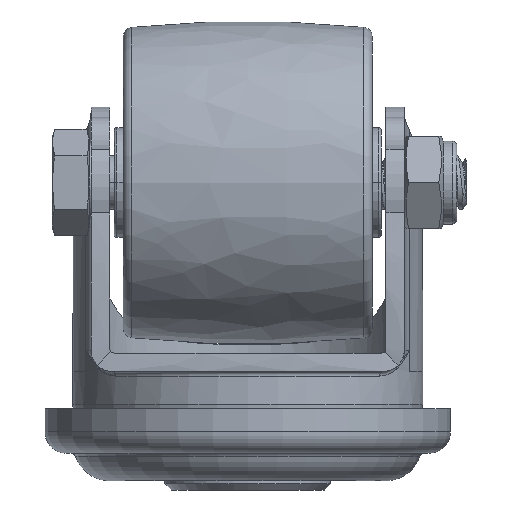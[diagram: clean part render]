
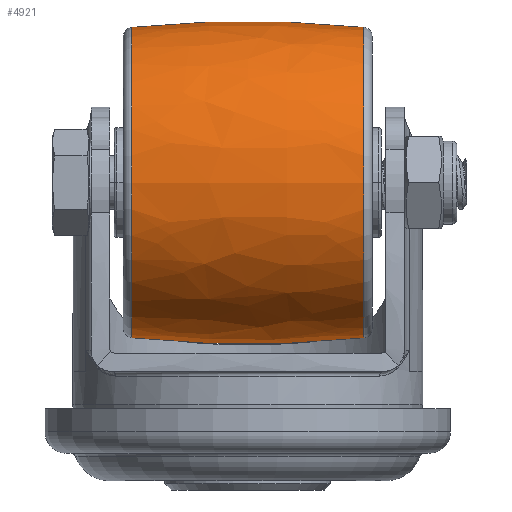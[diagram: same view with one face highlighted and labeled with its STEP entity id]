
A CAD part, front view. The second image highlights one B-rep face of the part: STEP entity #4921.
In plain terms, the highlighted free-form (B-spline) face has degree [3, 3] with [7, 4] control points.
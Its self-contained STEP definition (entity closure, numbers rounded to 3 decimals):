
#4671=CARTESIAN_POINT('',(0.,0.,-104.375));
#4672=DIRECTION('',(0.,-1.,0.));
#4673=DIRECTION('',(0.103,0.,0.995));
#4674=AXIS2_PLACEMENT_3D('',#4671,#4672,#4673);
#4681=CARTESIAN_POINT('',(0.,0.,104.375));
#4682=DIRECTION('',(0.,1.,0.));
#4683=DIRECTION('',(0.103,0.,-0.995));
#4684=AXIS2_PLACEMENT_3D('',#4681,#4682,#4683);
#4696=CARTESIAN_POINT('',(12.603,0.,0.));
#4697=DIRECTION('',(-1.,0.,0.));
#4698=DIRECTION('',(0.,0.,-1.));
#4699=AXIS2_PLACEMENT_3D('',#4696,#4697,#4698);
#4701=CARTESIAN_POINT('',(-12.603,0.,0.));
#4702=DIRECTION('',(-1.,0.,0.));
#4703=DIRECTION('',(0.,0.,-1.));
#4704=AXIS2_PLACEMENT_3D('',#4701,#4702,#4703);
#4714=CARTESIAN_POINT('',(12.603,0.,-16.847));
#4715=CARTESIAN_POINT('',(12.603,0.,16.847));
#4716=VERTEX_POINT('',#4714);
#4717=VERTEX_POINT('',#4715);
#4726=CARTESIAN_POINT('',(-12.603,0.,-16.847));
#4727=CARTESIAN_POINT('',(-12.603,0.,16.847));
#4728=VERTEX_POINT('',#4726);
#4729=VERTEX_POINT('',#4727);
#4886=CARTESIAN_POINT('',(13.106,1.054,-16.76));
#4887=CARTESIAN_POINT('',(4.385,1.114,-17.701));
#4888=CARTESIAN_POINT('',(-4.385,1.114,
-17.701));
#4889=CARTESIAN_POINT('',(-13.106,1.054,
-16.76));
#4890=CARTESIAN_POINT('',(13.106,-9.26,
-17.409));
#4891=CARTESIAN_POINT('',(4.385,-9.78,
-18.387));
#4892=CARTESIAN_POINT('',(-4.385,-9.78,
-18.387));
#4893=CARTESIAN_POINT('',(-13.106,-9.26,
-17.409));
#4894=CARTESIAN_POINT('',(13.106,-16.793,
-10.335));
#4895=CARTESIAN_POINT('',(4.385,-17.736,
-10.915));
#4896=CARTESIAN_POINT('',(-4.385,-17.736,
-10.915));
#4897=CARTESIAN_POINT('',(-13.106,-16.793,
-10.335));
#4898=CARTESIAN_POINT('',(13.106,-16.793,
0.));
#4899=CARTESIAN_POINT('',(4.385,-17.736,
0.));
#4900=CARTESIAN_POINT('',(-4.385,-17.736,
0.));
#4901=CARTESIAN_POINT('',(-13.106,-16.793,
0.));
#4902=CARTESIAN_POINT('',(13.106,-16.793,10.335));
#4903=CARTESIAN_POINT('',(4.385,-17.736,10.915));
#4904=CARTESIAN_POINT('',(-4.385,-17.736,
10.915));
#4905=CARTESIAN_POINT('',(-13.106,-16.793,
10.335));
#4906=CARTESIAN_POINT('',(13.106,-9.26,17.409));
#4907=CARTESIAN_POINT('',(4.385,-9.78,18.387));
#4908=CARTESIAN_POINT('',(-4.385,-9.78,
18.387));
#4909=CARTESIAN_POINT('',(-13.106,-9.26,
17.409));
#4910=CARTESIAN_POINT('',(13.106,1.054,16.76));
#4911=CARTESIAN_POINT('',(4.385,1.114,17.701));
#4912=CARTESIAN_POINT('',(-4.385,1.114,17.701));
#4913=CARTESIAN_POINT('',(-13.106,1.054,16.76));
#4914=(BOUNDED_SURFACE()B_SPLINE_SURFACE(3,3,((#4886,#4887,#4888,#4889),(#4890,
#4891,#4892,#4893),(#4894,#4895,#4896,#4897),(#4898,#4899,#4900,#4901),(#4902,
#4903,#4904,#4905),(#4906,#4907,#4908,#4909),(#4910,#4911,#4912,#4913)),
.UNSPECIFIED.,.F.,.F.,.F.)B_SPLINE_SURFACE_WITH_KNOTS((4,3,4),(4,4),(0.,1.,
2.),(0.,1.),.UNSPECIFIED.)GEOMETRIC_REPRESENTATION_ITEM()RATIONAL_B_SPLINE_SURFACE(((1.191,1.186,1.186,1.191),(
0.94,0.937,0.937,0.94),(
0.94,0.937,0.937,0.94),(
1.191,1.186,1.186,1.191),(
0.94,0.937,0.937,0.94),(
0.94,0.937,0.937,0.94),(
1.191,1.186,1.186,1.191)))REPRESENTATION_ITEM('')SURFACE());
#4915=ORIENTED_EDGE('',*,*,#4878,.F.);
#4916=ORIENTED_EDGE('',*,*,#4854,.T.);
#4917=ORIENTED_EDGE('',*,*,#4800,.T.);
#4918=ORIENTED_EDGE('',*,*,#4851,.F.);
#4919=EDGE_LOOP('',(#4915,#4916,#4917,#4918));
#4920=FACE_OUTER_BOUND('',#4919,.F.);
#4921=ADVANCED_FACE('',(#4920),#4914,.T.);
#4675=CIRCLE('',#4674,121.875);
#4685=CIRCLE('',#4684,121.875);
#4700=CIRCLE('',#4699,16.847);
#4705=CIRCLE('',#4704,16.847);
#4800=EDGE_CURVE('',#4728,#4729,#4705,.T.);
#4851=EDGE_CURVE('',#4717,#4729,#4675,.T.);
#4854=EDGE_CURVE('',#4716,#4728,#4685,.T.);
#4878=EDGE_CURVE('',#4716,#4717,#4700,.T.);
